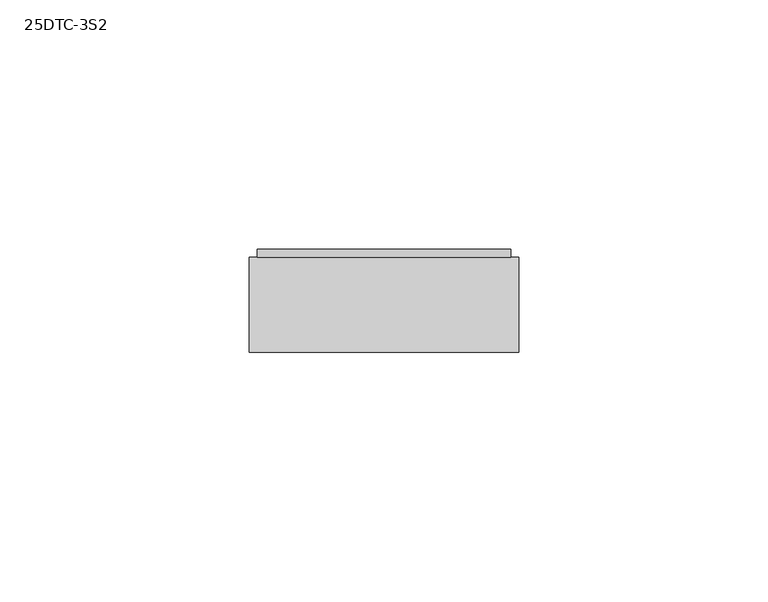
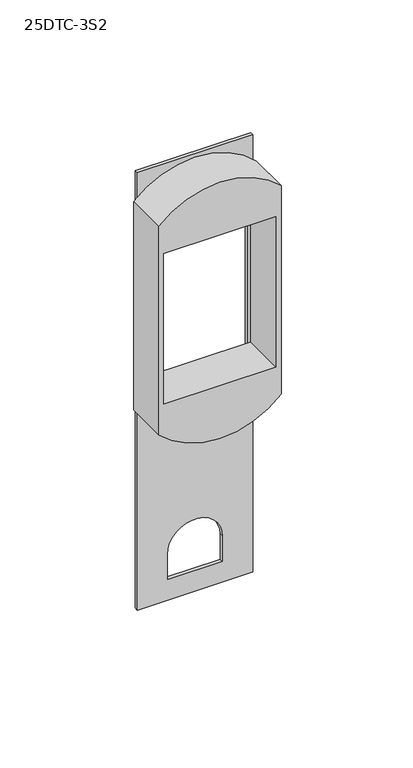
"""IFC4 building model written with IfcOpenShell, lengths in millimetres: proxy geometry, Accessory-Wiremold-Data_And_AV_Add_on_Cover_25_Series_Poles : 25DTC-3S2."""

from ifc_helpers import new_model, si_unit, point, frame, frame_2d, origin, place, context, project, spatial, polyline, circle_curve, trimmed, segment, composite_curve, outline, extrude, source, transform, mapped, element, save


def proxy_25dtc_3s2_96ee3a1e(model_context):
    return source(origin(), model_context, "Body", "SweptSolid", [
        extrude(outline(composite_curve([segment(polyline([(190.4007813, -26.9875), (93.5632813, -26.9875)]), True, "CONTINUOUS"), segment(trimmed(circle_curve(frame_2d((120.777567, 0.0)), 38.3267857), [point((93.5632813, -26.9875))], [point((93.5632813, 26.9875))], False, "CARTESIAN"), True, "CONTINUOUS"), segment(polyline([(93.5632813, 26.9875), (190.4007813, 26.9875)]), True, "CONTINUOUS"), segment(trimmed(circle_curve(frame_2d((163.1864955, 0.0)), 38.3267857), [point((190.4007813, 26.9875))], [point((190.4007813, -26.9875))], False, "CARTESIAN"), True, "CONTINUOUS")], self_intersect=False), holes=[polyline([(176.9070312, 24.60625), (107.0570313, 24.60625), (107.0570313, -24.60625), (176.9070312, -24.60625), (176.9070312, 24.60625)])]), frame((0.0, -19.05, 0.0), z_axis=(0.0, 1.0, 0.0), x_axis=(0.0, 0.0, 1.0)), (0.0, 0.0, 1.0), 19.05),
        extrude(outline(polyline([(203.2, 25.4), (203.2, -25.4), (0.0, -25.4), (0.0, 25.4), (203.2, 25.4)]), holes=[composite_curve([segment(polyline([(21.3100073, 12.05), (9.525, 12.05), (9.525, -12.05), (21.3100073, -12.05)]), True, "CONTINUOUS"), segment(trimmed(circle_curve(frame_2d((21.3100073, 0.0)), 12.05), [point((21.3100073, -12.05))], [point((21.3100073, 12.05))], True, "CARTESIAN"), True, "CONTINUOUS")], self_intersect=False), polyline([(185.7375, 23.01875), (100.0125, 23.01875), (100.0125, -23.01875), (185.7375, -23.01875), (185.7375, 23.01875)])]), frame((0.0, 0.0, 0.0), z_axis=(0.0, 1.0, 0.0), x_axis=(0.0, 0.0, 1.0)), (0.0, 0.0, 1.0), 1.5875),
    ])


if __name__ == "__main__":
    model = new_model("IFC4")
    model_context = context("Model", 3, world=origin())
    ifc_project = project(units=[si_unit("LENGTHUNIT", "METRE", prefix="MILLI")], contexts=[model_context])
    site = spatial("IfcSite", under=ifc_project)
    building = spatial("IfcBuilding", under=site)
    placement = place(None, origin())
    proxy_25dtc_3s2_shape = proxy_25dtc_3s2_96ee3a1e(model_context)
    element("IfcBuildingElementProxy", 1, Name="Accessory-Wiremold-Data_And_AV_Add_on_Cover_25_Series_Poles : 25DTC-3S2", ObjectType="Accessory-Wiremold-Data_And_AV_Add_on_Cover_25_Series_Poles : 25DTC-3S2", at=placement, inside=building, context=model_context, shape_type="MappedRepresentation", body=[
        mapped(proxy_25dtc_3s2_shape, transform((0.0, 0.0, 0.0), x_axis=(1.0, 0.0, 0.0), y_axis=(0.0, 1.0, 0.0), z_axis=(0.0, 0.0, 1.0))),
    ])
    save(model, "model.ifc")
